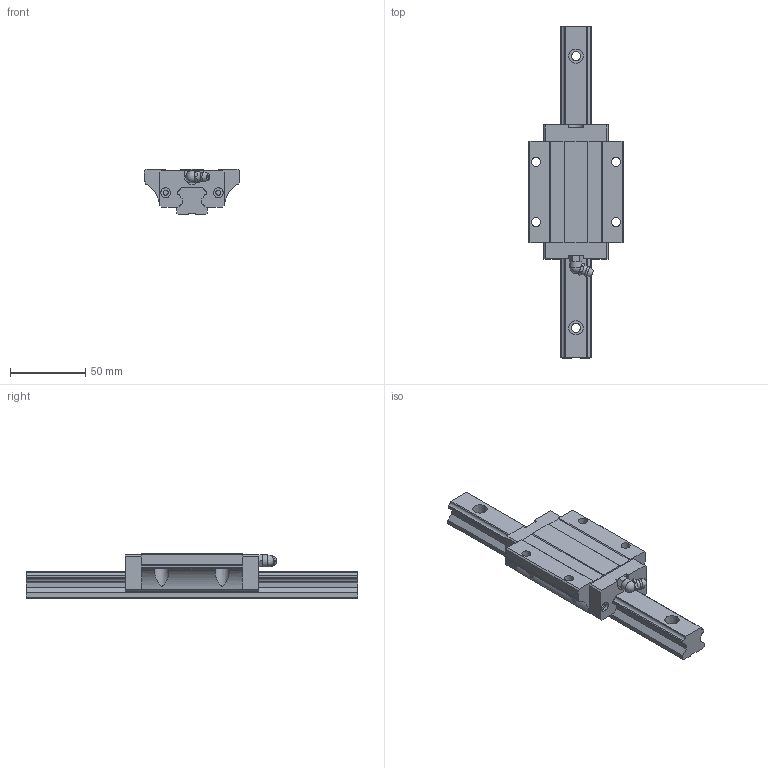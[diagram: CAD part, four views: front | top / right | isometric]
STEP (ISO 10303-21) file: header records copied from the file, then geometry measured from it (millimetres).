
FILE_DESCRIPTION(/* description */ (''),/* implementation_level */ '2;1');
FILE_NAME(/* name */ 'MSA20LE',/* time_stamp */ '2003-12-26T09:02:56+08:00',/* author */ (''),/* organization */ (''),/* preprocessor_version */ 'ST-DEVELOPER v9',/* originating_system */ '',/* authorisation */ '');
FILE_SCHEMA (('CONFIG_CONTROL_DESIGN'));
Length unit declared in the file: millimetre
Products named in the file (1): zirc19C8h7oa
Bounding box: 63 x 220 x 30 mm (x, y, z)
Volume: 153617.6 mm3; surface area: 39950.7 mm2
Topology: 3 solids, 3 shells, 198 faces, 530 edges, 346 vertices
Faces by surface type: plane 142, cylinder 45, torus 7, sphere 2, cone 1, bspline 1
Full cylindrical faces by diameter (mm): 3.25 x4, 6 x8, 6.5 x4, 8 x1, 9.5 x4
Entity records: 6286 total; most frequent: CARTESIAN_POINT 1274, DIRECTION 1009, ORIENTED_EDGE 1000, EDGE_CURVE 500, LINE 343, VECTOR 343, VERTEX_POINT 342, AXIS2_PLACEMENT_3D 333
